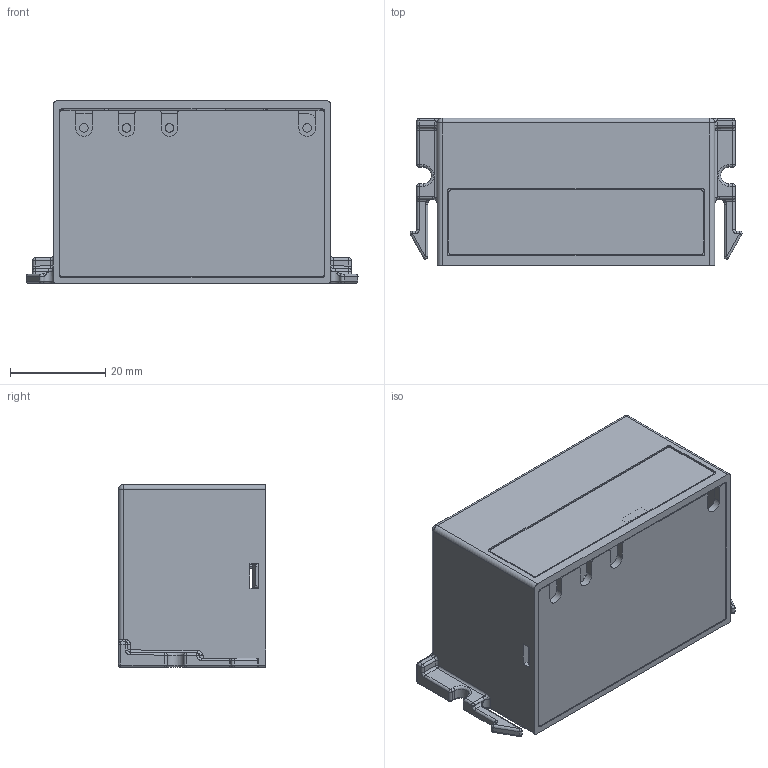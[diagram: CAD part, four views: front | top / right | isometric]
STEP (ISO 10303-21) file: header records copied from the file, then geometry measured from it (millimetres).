
FILE_DESCRIPTION((''),'2;1');
FILE_NAME('GD20_C3_REJECTOR_ASM','2025-02-13T11:15:04',('Administrator'),(''),'CREO PARAMETRIC BY PTC INC, 2019080','CREO PARAMETRIC BY PTC INC, 2019080','');
FILE_SCHEMA(('CONFIG_CONTROL_DESIGN'));
Products named in the file (11): 80740125; 80740126; 17003-01573; E-LC2-366; E-SR1206; E-CAP2-900-26_5X8_5; E-CAP2-900-26_5X12; E-CAP2-900-26_5X11; 17003-01573_ASM; C3_FILM; GD20_C3_REJECTOR_ASM
Assembly tree (14 placements, depth 3):
  GD20_C3_REJECTOR_ASM
    80740125
    80740126
    17003-01573_ASM
      17003-01573
      E-LC2-366
      E-SR1206  x2
      E-CAP2-900-26_5X8_5  x2
      E-CAP2-900-26_5X12
      E-CAP2-900-26_5X11  x3
    C3_FILM
Bounding box: 69.89 x 31 x 38.5 mm (x, y, z)
Volume: 52813.9 mm3; surface area: 39015.5 mm2
Topology: 14 solids, 14 shells, 730 faces, 1742 edges, 1064 vertices
Faces by surface type: plane 354, cylinder 258, sphere 64, torus 34, bspline 20
Entity records: 18966 total; most frequent: CARTESIAN_POINT 4624, DIRECTION 2947, ORIENTED_EDGE 2926, EDGE_CURVE 1463, VECTOR 991, LINE 991, AXIS2_PLACEMENT_3D 978, VERTEX_POINT 902
